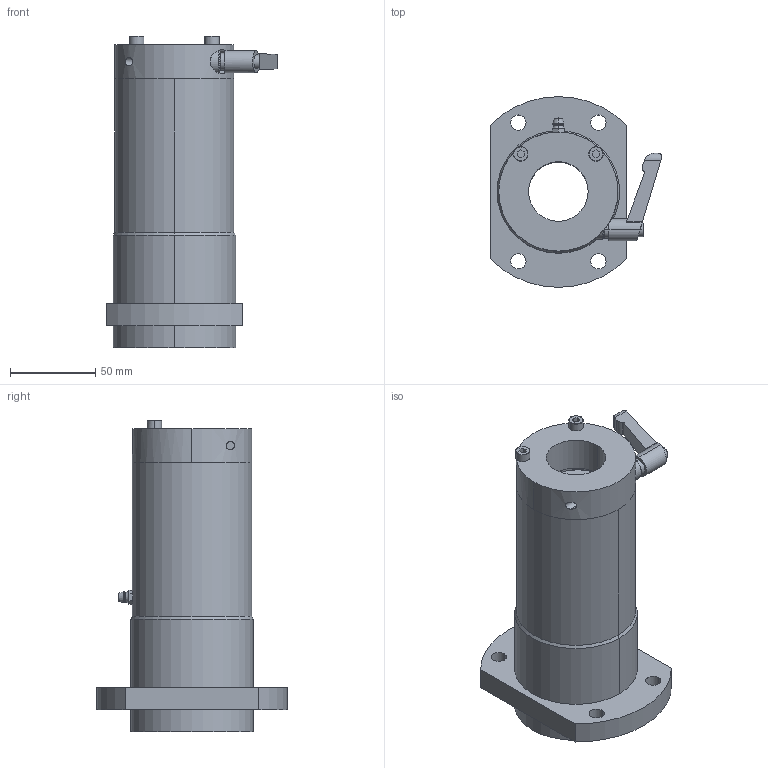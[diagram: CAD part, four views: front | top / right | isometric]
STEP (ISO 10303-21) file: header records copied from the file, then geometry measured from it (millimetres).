
FILE_DESCRIPTION (( 'STEP AP214' ), '1' );
FILE_NAME ('LFWB35-C.STEP', '2023-06-27T02:30:49', ( '' ), ( '' ), 'SwSTEP 2.0', 'SolidWorks 2019', '' );
FILE_SCHEMA (( 'AUTOMOTIVE_DESIGN' ));
Length unit declared in the file: millimetre
Products named in the file (3): LFWB35-C; “ÁSCK3520CO-S5.5; LFWB35
Assembly tree (2 placements, depth 2):
  LFWB35-C
    LFWB35
    “ÁSCK3520CO-S5.5
Bounding box: 100.7 x 112 x 183 mm (x, y, z)
Volume: 570837.7 mm3; surface area: 98159.7 mm2
Topology: 3 solids, 9 shells, 236 faces, 591 edges, 368 vertices
Faces by surface type: cylinder 85, plane 70, bspline 47, cone 22, torus 8, sphere 4
Entity records: 10350 total; most frequent: CARTESIAN_POINT 2300, DIRECTION 1227, ORIENTED_EDGE 1166, EDGE_CURVE 583, AXIS2_PLACEMENT_3D 515, VERTEX_POINT 364, CIRCLE 321, EDGE_LOOP 283
